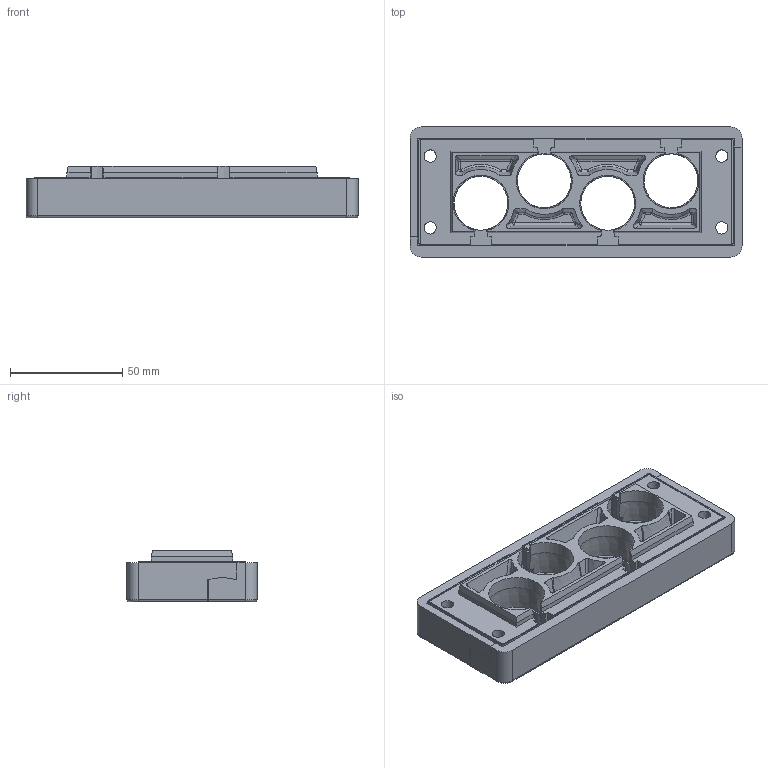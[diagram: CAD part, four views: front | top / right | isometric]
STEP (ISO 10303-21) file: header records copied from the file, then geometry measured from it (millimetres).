
FILE_DESCRIPTION(/* description */ (''),/* implementation_level */ '2;1');
FILE_NAME(/* name */ 'H:\SapWorkDir\Inventor\MP1\ConvertTempPath\87_11_121449_00_A_220620_KDL-D 24-4 ZSB.stp',/* time_stamp */ '2022-06-20T07:07:55+02:00',/* author */ ('BAUER'),/* organization */ (''),/* preprocessor_version */ 'ST-DEVELOPER v16.13',/* originating_system */ 'Autodesk Inventor 2018',/* authorisation */ '');
FILE_SCHEMA (('AUTOMOTIVE_DESIGN { 1 0 10303 214 3 1 1 }'));
Length unit declared in the file: millimetre
Products named in the file (4): 121449; 121395; 121394; Block2x6 neu
Assembly tree (3 placements, depth 2):
  121449
    121395
    121394
    Block2x6 neu
Bounding box: 148 x 58 x 23 mm (x, y, z)
Volume: 113541.2 mm3; surface area: 53295.9 mm2
Topology: 3 solids, 3 shells, 1029 faces, 2733 edges, 1770 vertices
Faces by surface type: plane 675, cylinder 163, bspline 125, torus 26, sphere 24, cone 16
Full cylindrical faces by diameter (mm): 5 x2, 5.5 x12, 6 x2, 7 x4, 8 x4, 9 x4
Entity records: 32837 total; most frequent: CARTESIAN_POINT 7674, ORIENTED_EDGE 5342, DIRECTION 4679, EDGE_CURVE 2671, LINE 1949, VECTOR 1949, VERTEX_POINT 1760, AXIS2_PLACEMENT_3D 1365
